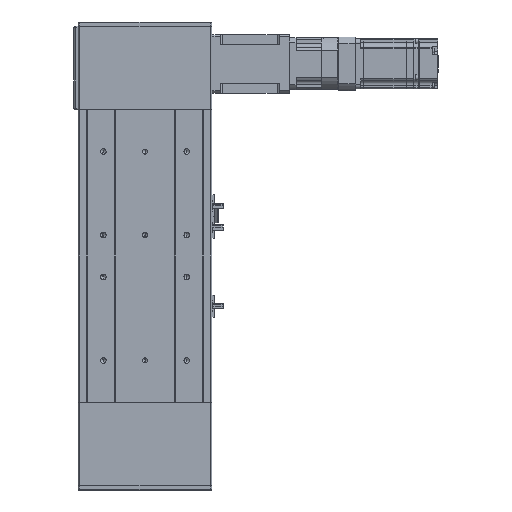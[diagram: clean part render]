
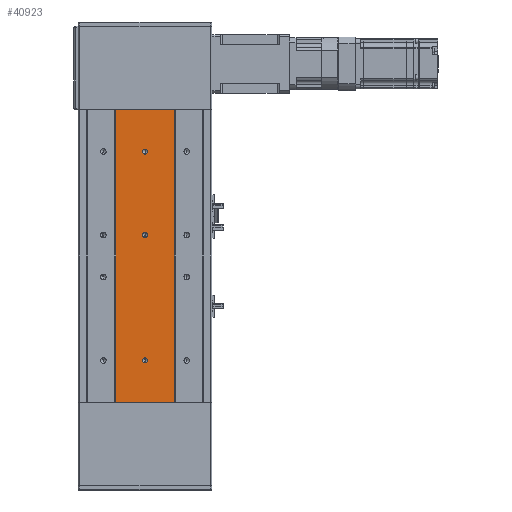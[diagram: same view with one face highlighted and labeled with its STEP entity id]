
A CAD part, front view. The second image highlights one B-rep face of the part: STEP entity #40923.
In plain terms, the highlighted planar face has unit normal (0, -1, 0).
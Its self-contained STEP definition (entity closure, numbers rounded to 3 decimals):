
#1044 = EDGE_CURVE ( 'NONE', #15743, #15728, #9408, .T. ) ;
#1048 = EDGE_CURVE ( 'NONE', #93627, #93450, #9366, .T. ) ;
#1055 = EDGE_CURVE ( 'NONE', #88887, #92896, #9418, .T. ) ;
#1068 = EDGE_CURVE ( 'NONE', #15743, #15713, #9384, .T. ) ;
#1106 = EDGE_CURVE ( 'NONE', #15713, #15705, #9533, .T. ) ;
#1159 = EDGE_CURVE ( 'NONE', #15728, #15705, #47796, .T. ) ;
#1161 = EDGE_CURVE ( 'NONE', #93765, #93736, #47833, .T. ) ;
#7128 = DIRECTION ( 'NONE',  ( 0., 0., 1. ) ) ;
#7134 = CARTESIAN_POINT ( 'NONE',  ( 0., -51., 175. ) ) ;
#7153 = CARTESIAN_POINT ( 'NONE',  ( 0., -51., -125. ) ) ;
#7188 = DIRECTION ( 'NONE',  ( 1., 0., 0. ) ) ;
#7195 = DIRECTION ( 'NONE',  ( 0., 1., 0. ) ) ;
#7220 = CARTESIAN_POINT ( 'NONE',  ( 0., -51., 25. ) ) ;
#7246 = DIRECTION ( 'NONE',  ( 0., 1., 0. ) ) ;
#7253 = DIRECTION ( 'NONE',  ( 0., 0., -1. ) ) ;
#7274 = DIRECTION ( 'NONE',  ( 0., 0., 1. ) ) ;
#7275 = CARTESIAN_POINT ( 'NONE',  ( -35., -51., 175. ) ) ;
#9365 = VECTOR ( 'NONE', #7188, 1000. ) ;
#9366 = CIRCLE ( 'NONE', #13283, 3. ) ;
#9384 = LINE ( 'NONE', #7275, #9411 ) ;
#9408 = LINE ( 'NONE', #7134, #9365 ) ;
#9411 = VECTOR ( 'NONE', #7253, 1000. ) ;
#9418 = CIRCLE ( 'NONE', #13234, 3. ) ;
#9499 = VECTOR ( 'NONE', #90715, 1000. ) ;
#9533 = LINE ( 'NONE', #90669, #9499 ) ;
#13234 = AXIS2_PLACEMENT_3D ( 'NONE', #7220, #7246, #7274 ) ;
#13249 = AXIS2_PLACEMENT_3D ( 'NONE', #91112, #91096, #91098 ) ;
#13283 = AXIS2_PLACEMENT_3D ( 'NONE', #7153, #7195, #7128 ) ;
#15705 = VERTEX_POINT ( 'NONE', #58921 ) ;
#15713 = VERTEX_POINT ( 'NONE', #58913 ) ;
#15728 = VERTEX_POINT ( 'NONE', #58962 ) ;
#15743 = VERTEX_POINT ( 'NONE', #58940 ) ;
#17903 = AXIS2_PLACEMENT_3D ( 'NONE', #76456, #76441, #76442 ) ;
#24888 = CIRCLE ( 'NONE', #57480, 3. ) ;
#26256 = CIRCLE ( 'NONE', #57466, 3. ) ;
#26407 = CIRCLE ( 'NONE', #57477, 3. ) ;
#40923 = ADVANCED_FACE ( 'NONE', ( #81021, #80973, #80994, #81013 ), #76474, .F. ) ;
#47796 = LINE ( 'NONE', #91087, #47810 ) ;
#47810 = VECTOR ( 'NONE', #91088, 1000. ) ;
#47833 = CIRCLE ( 'NONE', #13249, 3. ) ;
#57466 = AXIS2_PLACEMENT_3D ( 'NONE', #63802, #63806, #63809 ) ;
#57477 = AXIS2_PLACEMENT_3D ( 'NONE', #64169, #64184, #64167 ) ;
#57480 = AXIS2_PLACEMENT_3D ( 'NONE', #64239, #64263, #64297 ) ;
#58913 = CARTESIAN_POINT ( 'NONE',  ( -35., -51., -175. ) ) ;
#58921 = CARTESIAN_POINT ( 'NONE',  ( 35., -51., -175. ) ) ;
#58940 = CARTESIAN_POINT ( 'NONE',  ( -35., -51., 175. ) ) ;
#58962 = CARTESIAN_POINT ( 'NONE',  ( 35., -51., 175. ) ) ;
#63200 = ORIENTED_EDGE ( 'NONE', *, *, #1055, .T. ) ;
#63247 = ORIENTED_EDGE ( 'NONE', *, *, #1161, .T. ) ;
#63260 = ORIENTED_EDGE ( 'NONE', *, *, #1048, .T. ) ;
#63266 = ORIENTED_EDGE ( 'NONE', *, *, #1068, .T. ) ;
#63298 = ORIENTED_EDGE ( 'NONE', *, *, #86757, .T. ) ;
#63299 = ORIENTED_EDGE ( 'NONE', *, *, #1159, .F. ) ;
#63802 = CARTESIAN_POINT ( 'NONE',  ( 0., -51., 125. ) ) ;
#63806 = DIRECTION ( 'NONE',  ( 0., 1., 0. ) ) ;
#63809 = DIRECTION ( 'NONE',  ( 0., 0., 1. ) ) ;
#64167 = DIRECTION ( 'NONE',  ( 0., 0., 1. ) ) ;
#64169 = CARTESIAN_POINT ( 'NONE',  ( 0., -51., 25. ) ) ;
#64184 = DIRECTION ( 'NONE',  ( 0., 1., 0. ) ) ;
#64239 = CARTESIAN_POINT ( 'NONE',  ( 0., -51., -125. ) ) ;
#64250 = ORIENTED_EDGE ( 'NONE', *, *, #1044, .F. ) ;
#64263 = DIRECTION ( 'NONE',  ( 0., 1., 0. ) ) ;
#64269 = ORIENTED_EDGE ( 'NONE', *, *, #86622, .T. ) ;
#64277 = ORIENTED_EDGE ( 'NONE', *, *, #86712, .T. ) ;
#64284 = ORIENTED_EDGE ( 'NONE', *, *, #1106, .T. ) ;
#64297 = DIRECTION ( 'NONE',  ( 0., 0., 1. ) ) ;
#66723 = CARTESIAN_POINT ( 'NONE',  ( 0., -51., 28. ) ) ;
#70996 = CARTESIAN_POINT ( 'NONE',  ( 0., -51., 22. ) ) ;
#71576 = CARTESIAN_POINT ( 'NONE',  ( 0., -51., -128. ) ) ;
#71776 = CARTESIAN_POINT ( 'NONE',  ( 0., -51., -122. ) ) ;
#71910 = CARTESIAN_POINT ( 'NONE',  ( 0., -51., 122. ) ) ;
#71923 = CARTESIAN_POINT ( 'NONE',  ( 0., -51., 128. ) ) ;
#76441 = DIRECTION ( 'NONE',  ( 0., 1., 0. ) ) ;
#76442 = DIRECTION ( 'NONE',  ( 0., 0., 1. ) ) ;
#76456 = CARTESIAN_POINT ( 'NONE',  ( 0., -51., 175. ) ) ;
#76474 = PLANE ( 'NONE',  #17903 ) ;
#79902 = EDGE_LOOP ( 'NONE', ( #63298, #63260 ) ) ;
#79907 = EDGE_LOOP ( 'NONE', ( #64269, #63247 ) ) ;
#79926 = EDGE_LOOP ( 'NONE', ( #64277, #63200 ) ) ;
#79931 = EDGE_LOOP ( 'NONE', ( #64284, #63299, #64250, #63266 ) ) ;
#80973 = FACE_BOUND ( 'NONE', #79926, .T. ) ;
#80994 = FACE_BOUND ( 'NONE', #79902, .T. ) ;
#81013 = FACE_OUTER_BOUND ( 'NONE', #79931, .T. ) ;
#81021 = FACE_BOUND ( 'NONE', #79907, .T. ) ;
#86622 = EDGE_CURVE ( 'NONE', #93736, #93765, #26256, .T. ) ;
#86712 = EDGE_CURVE ( 'NONE', #92896, #88887, #26407, .T. ) ;
#86757 = EDGE_CURVE ( 'NONE', #93450, #93627, #24888, .T. ) ;
#88887 = VERTEX_POINT ( 'NONE', #66723 ) ;
#90669 = CARTESIAN_POINT ( 'NONE',  ( 0., -51., -175. ) ) ;
#90715 = DIRECTION ( 'NONE',  ( 1., 0., 0. ) ) ;
#91087 = CARTESIAN_POINT ( 'NONE',  ( 35., -51., 175. ) ) ;
#91088 = DIRECTION ( 'NONE',  ( 0., 0., -1. ) ) ;
#91096 = DIRECTION ( 'NONE',  ( 0., 1., 0. ) ) ;
#91098 = DIRECTION ( 'NONE',  ( 0., 0., 1. ) ) ;
#91112 = CARTESIAN_POINT ( 'NONE',  ( 0., -51., 125. ) ) ;
#92896 = VERTEX_POINT ( 'NONE', #70996 ) ;
#93450 = VERTEX_POINT ( 'NONE', #71576 ) ;
#93627 = VERTEX_POINT ( 'NONE', #71776 ) ;
#93736 = VERTEX_POINT ( 'NONE', #71910 ) ;
#93765 = VERTEX_POINT ( 'NONE', #71923 ) ;
